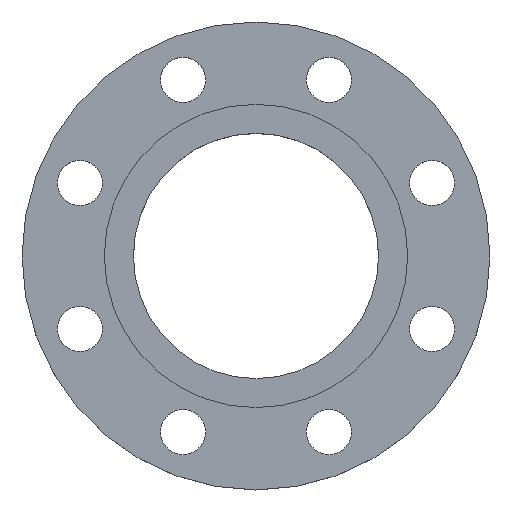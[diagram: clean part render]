
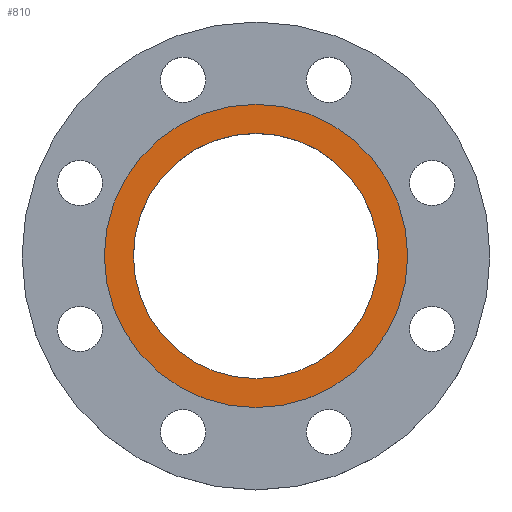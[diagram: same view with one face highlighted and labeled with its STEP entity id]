
A CAD part, top view. The second image highlights one B-rep face of the part: STEP entity #810.
In plain terms, the highlighted planar face has unit normal (0, 0, 1).
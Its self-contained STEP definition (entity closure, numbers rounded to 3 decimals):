
#13 = AXIS2_PLACEMENT_3D ( 'NONE', #567, #568, #569 ) ;
#41 = AXIS2_PLACEMENT_3D ( 'NONE', #216, #215, #214 ) ;
#66 = CIRCLE ( 'NONE', #67, 70.75 ) ;
#67 = AXIS2_PLACEMENT_3D ( 'NONE', #154, #153, #152 ) ;
#100 = CIRCLE ( 'NONE', #663, 87.5 ) ;
#152 = DIRECTION ( 'NONE',  ( 1., 0., 0. ) ) ;
#153 = DIRECTION ( 'NONE',  ( 0., 0., 1. ) ) ;
#154 = CARTESIAN_POINT ( 'NONE',  ( 0., 0., 0. ) ) ;
#161 = EDGE_CURVE ( 'NONE', #793, #772, #441, .T. ) ;
#212 = CARTESIAN_POINT ( 'NONE',  ( -87.5, 0., 0. ) ) ;
#214 = DIRECTION ( 'NONE',  ( 1., 0., 0. ) ) ;
#215 = DIRECTION ( 'NONE',  ( 0., 0., 1. ) ) ;
#216 = CARTESIAN_POINT ( 'NONE',  ( 0., 0., 0. ) ) ;
#217 = PLANE ( 'NONE',  #41 ) ;
#221 = FACE_OUTER_BOUND ( 'NONE', #734, .T. ) ;
#223 = FACE_BOUND ( 'NONE', #428, .T. ) ;
#241 = CARTESIAN_POINT ( 'NONE',  ( 70.75, 0., 0. ) ) ;
#274 = CARTESIAN_POINT ( 'NONE',  ( -70.75, 0., 0. ) ) ;
#293 = CARTESIAN_POINT ( 'NONE',  ( 87.5, 0., 0. ) ) ;
#326 = DIRECTION ( 'NONE',  ( -1., 0., 0. ) ) ;
#327 = DIRECTION ( 'NONE',  ( 0., 0., -1. ) ) ;
#328 = CARTESIAN_POINT ( 'NONE',  ( 0., 0., 0. ) ) ;
#428 = EDGE_LOOP ( 'NONE', ( #924, #926 ) ) ;
#441 = CIRCLE ( 'NONE', #13, 70.75 ) ;
#451 = CIRCLE ( 'NONE', #532, 87.5 ) ;
#532 = AXIS2_PLACEMENT_3D ( 'NONE', #718, #717, #716 ) ;
#567 = CARTESIAN_POINT ( 'NONE',  ( 0., 0., 0. ) ) ;
#568 = DIRECTION ( 'NONE',  ( 0., 0., 1. ) ) ;
#569 = DIRECTION ( 'NONE',  ( 1., 0., 0. ) ) ;
#635 = EDGE_CURVE ( 'NONE', #812, #763, #451, .T. ) ;
#663 = AXIS2_PLACEMENT_3D ( 'NONE', #328, #327, #326 ) ;
#712 = EDGE_CURVE ( 'NONE', #763, #812, #100, .T. ) ;
#716 = DIRECTION ( 'NONE',  ( -1., 0., 0. ) ) ;
#717 = DIRECTION ( 'NONE',  ( 0., 0., -1. ) ) ;
#718 = CARTESIAN_POINT ( 'NONE',  ( 0., 0., 0. ) ) ;
#734 = EDGE_LOOP ( 'NONE', ( #930, #931 ) ) ;
#763 = VERTEX_POINT ( 'NONE', #293 ) ;
#772 = VERTEX_POINT ( 'NONE', #274 ) ;
#793 = VERTEX_POINT ( 'NONE', #241 ) ;
#810 = ADVANCED_FACE ( 'NONE', ( #223, #221 ), #217, .T. ) ;
#812 = VERTEX_POINT ( 'NONE', #212 ) ;
#924 = ORIENTED_EDGE ( 'NONE', *, *, #161, .F. ) ;
#925 = EDGE_CURVE ( 'NONE', #772, #793, #66, .T. ) ;
#926 = ORIENTED_EDGE ( 'NONE', *, *, #925, .F. ) ;
#930 = ORIENTED_EDGE ( 'NONE', *, *, #635, .F. ) ;
#931 = ORIENTED_EDGE ( 'NONE', *, *, #712, .F. ) ;
